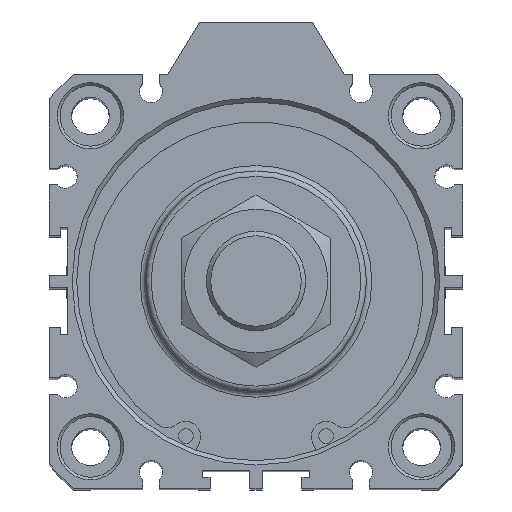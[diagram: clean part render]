
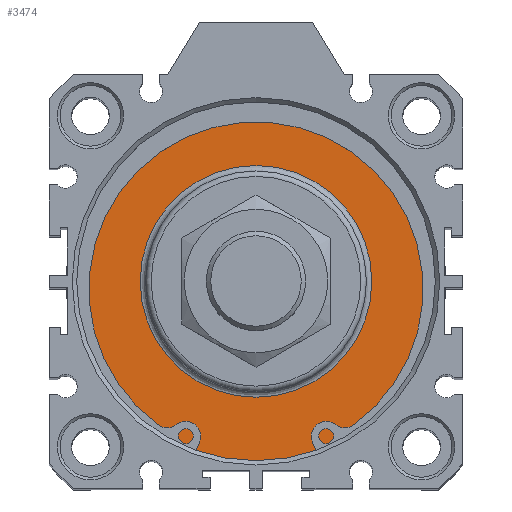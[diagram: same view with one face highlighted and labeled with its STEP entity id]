
A CAD part, top view. The second image highlights one B-rep face of the part: STEP entity #3474.
In plain terms, the highlighted planar face has unit normal (0, 0, 1).
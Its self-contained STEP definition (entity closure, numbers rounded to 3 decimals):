
#3423=CARTESIAN_POINT('',(2.99,22.555,177.3));
#3424=VERTEX_POINT('',#3423);
#3425=CARTESIAN_POINT('',(2.99,1.555,177.3));
#3426=DIRECTION('',(0.0,0.0,1.0));
#3427=DIRECTION('',(0.0,-1.0,0.0));
#3428=AXIS2_PLACEMENT_3D('',#3425,#3426,#3427);
#3429=CIRCLE('',#3428,21.);
#3430=EDGE_CURVE('',#3424,#3424,#3429,.T.);
#3455=CARTESIAN_POINT('',(2.99,27.805,177.3));
#3456=DIRECTION('',(0.0,0.0,1.0));
#3457=DIRECTION('',(1.0,0.0,0.0));
#3458=AXIS2_PLACEMENT_3D('',#3455,#3456,#3457);
#3459=PLANE('',#3458);
#3460=CARTESIAN_POINT('',(2.99,34.055,177.3));
#3461=VERTEX_POINT('',#3460);
#3462=CARTESIAN_POINT('',(2.99,1.555,177.3));
#3463=DIRECTION('',(0.0,0.0,-1.0));
#3464=DIRECTION('',(0.0,1.0,0.0));
#3465=AXIS2_PLACEMENT_3D('',#3462,#3463,#3464);
#3466=CIRCLE('',#3465,32.5);
#3467=EDGE_CURVE('',#3461,#3461,#3466,.T.);
#3468=ORIENTED_EDGE('',*,*,#3467,.F.);
#3469=EDGE_LOOP('',(#3468));
#3470=FACE_OUTER_BOUND('',#3469,.T.);
#3471=ORIENTED_EDGE('',*,*,#3430,.F.);
#3472=EDGE_LOOP('',(#3471));
#3473=FACE_BOUND('',#3472,.T.);
#3474=ADVANCED_FACE('',(#3470,#3473),#3459,.T.);
